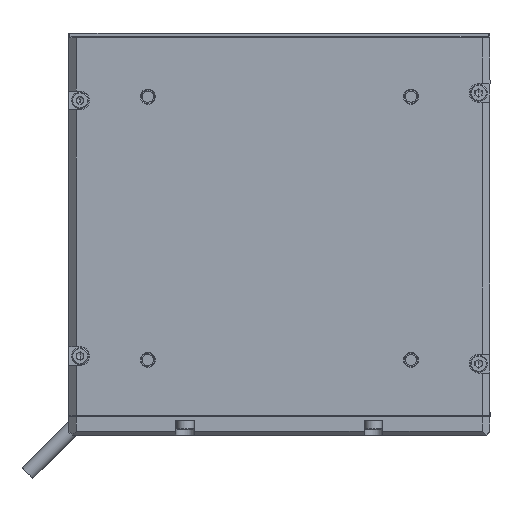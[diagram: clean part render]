
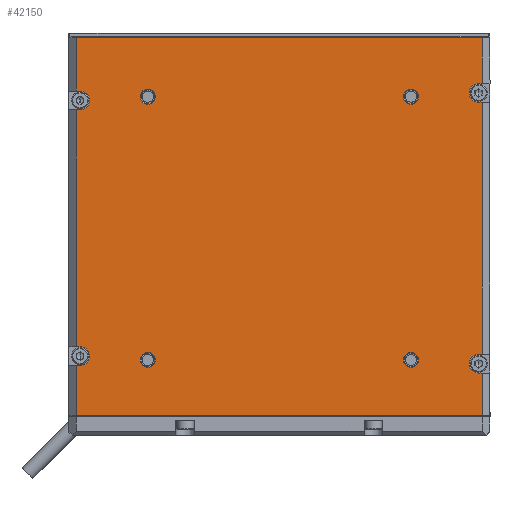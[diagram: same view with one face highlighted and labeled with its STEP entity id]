
A CAD part, top view. The second image highlights one B-rep face of the part: STEP entity #42150.
In plain terms, the highlighted planar face has unit normal (0, 0, 1).
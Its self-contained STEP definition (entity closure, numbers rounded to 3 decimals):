
#39350=CARTESIAN_POINT('',(93.5,93.1,108.9));
#39360=VERTEX_POINT('',#39350);
#39600=CARTESIAN_POINT('',(82.1,93.1,108.9));
#39610=DIRECTION('',(1.,0.,0.));
#39620=VECTOR('',#39610,1.);
#39630=LINE('',#39600,#39620);
#39640=CARTESIAN_POINT('',(82.1,93.1,108.9));
#39650=VERTEX_POINT('',#39640);
#39660=EDGE_CURVE('',#39650,#39360,#39630,.T.);
#39930=CARTESIAN_POINT('',(41.355,91.565,108.9));
#39940=DIRECTION('',(0.,0.,1.));
#39950=DIRECTION('',(0.,1.,0.));
#39960=AXIS2_PLACEMENT_3D('',#39930,#39940,#39950);
#39970=PLANE('',#39960);
#39980=CARTESIAN_POINT('',(80.1,-14.9,108.9));
#39990=DIRECTION('',(1.,0.,0.));
#40000=VECTOR('',#39990,1.);
#40010=LINE('',#39980,#40000);
#40020=CARTESIAN_POINT('',(80.1,-14.9,108.9));
#40030=VERTEX_POINT('',#40020);
#40040=CARTESIAN_POINT('',(93.5,-14.9,108.9));
#40050=VERTEX_POINT('',#40040);
#40060=EDGE_CURVE('',#40030,#40050,#40010,.T.);
#40070=ORIENTED_EDGE('',*,*,#40060,.T.);
#40080=CARTESIAN_POINT('',(80.1,-14.9,108.9));
#40090=DIRECTION('',(0.,1.,0.));
#40100=VECTOR('',#40090,1.);
#40110=LINE('',#40080,#40100);
#40120=CARTESIAN_POINT('',(80.1,-13.9,108.9));
#40130=VERTEX_POINT('',#40120);
#40140=EDGE_CURVE('',#40030,#40130,#40110,.T.);
#40150=ORIENTED_EDGE('',*,*,#40140,.F.);
#40160=CARTESIAN_POINT('',(77.6,-13.9,108.9));
#40170=DIRECTION('',(-0.,0.,-1.));
#40180=DIRECTION('',(-1.,0.,0.));
#40190=AXIS2_PLACEMENT_3D('',#40160,#40170,#40180);
#40200=CIRCLE('',#40190,2.5);
#40210=CARTESIAN_POINT('',(75.1,-13.9,108.9));
#40220=VERTEX_POINT('',#40210);
#40230=EDGE_CURVE('',#40220,#40130,#40200,.T.);
#40240=ORIENTED_EDGE('',*,*,#40230,.T.);
#40250=CARTESIAN_POINT('',(75.1,-13.9,108.9));
#40260=DIRECTION('',(0.,-1.,0.));
#40270=VECTOR('',#40260,1.);
#40280=LINE('',#40250,#40270);
#40290=CARTESIAN_POINT('',(75.1,-14.9,108.9));
#40300=VERTEX_POINT('',#40290);
#40310=EDGE_CURVE('',#40220,#40300,#40280,.T.);
#40320=ORIENTED_EDGE('',*,*,#40310,.F.);
#40330=CARTESIAN_POINT('',(12.1,-14.9,108.9));
#40340=DIRECTION('',(1.,0.,0.));
#40350=VECTOR('',#40340,1.);
#40360=LINE('',#40330,#40350);
#40370=CARTESIAN_POINT('',(12.1,-14.9,108.9));
#40380=VERTEX_POINT('',#40370);
#40390=EDGE_CURVE('',#40380,#40300,#40360,.T.);
#40400=ORIENTED_EDGE('',*,*,#40390,.T.);
#40410=CARTESIAN_POINT('',(12.1,-14.9,108.9));
#40420=DIRECTION('',(0.,1.,0.));
#40430=VECTOR('',#40420,1.);
#40440=LINE('',#40410,#40430);
#40450=CARTESIAN_POINT('',(12.1,-13.9,108.9));
#40460=VERTEX_POINT('',#40450);
#40470=EDGE_CURVE('',#40380,#40460,#40440,.T.);
#40480=ORIENTED_EDGE('',*,*,#40470,.F.);
#40490=CARTESIAN_POINT('',(9.6,-13.9,108.9));
#40500=DIRECTION('',(-0.,0.,-1.));
#40510=DIRECTION('',(-1.,0.,0.));
#40520=AXIS2_PLACEMENT_3D('',#40490,#40500,#40510);
#40530=CIRCLE('',#40520,2.5);
#40540=CARTESIAN_POINT('',(7.1,-13.9,108.9));
#40550=VERTEX_POINT('',#40540);
#40560=EDGE_CURVE('',#40550,#40460,#40530,.T.);
#40570=ORIENTED_EDGE('',*,*,#40560,.T.);
#40580=CARTESIAN_POINT('',(7.1,-13.9,108.9));
#40590=DIRECTION('',(0.,-1.,0.));
#40600=VECTOR('',#40590,1.);
#40610=LINE('',#40580,#40600);
#40620=CARTESIAN_POINT('',(7.1,-14.9,108.9));
#40630=VERTEX_POINT('',#40620);
#40640=EDGE_CURVE('',#40550,#40630,#40610,.T.);
#40650=ORIENTED_EDGE('',*,*,#40640,.F.);
#40660=CARTESIAN_POINT('',(-7.1,-14.9,108.9));
#40670=DIRECTION('',(1.,0.,0.));
#40680=VECTOR('',#40670,1.);
#40690=LINE('',#40660,#40680);
#40700=CARTESIAN_POINT('',(-7.1,-14.9,108.9));
#40710=VERTEX_POINT('',#40700);
#40720=EDGE_CURVE('',#40710,#40630,#40690,.T.);
#40730=ORIENTED_EDGE('',*,*,#40720,.T.);
#40740=CARTESIAN_POINT('',(-7.1,-14.9,108.9));
#40750=DIRECTION('',(0.,1.,0.));
#40760=VECTOR('',#40750,1.);
#40770=LINE('',#40740,#40760);
#40780=CARTESIAN_POINT('',(-7.1,93.1,108.9));
#40790=VERTEX_POINT('',#40780);
#40800=EDGE_CURVE('',#40710,#40790,#40770,.T.);
#40810=ORIENTED_EDGE('',*,*,#40800,.F.);
#40820=CARTESIAN_POINT('',(5.1,93.1,108.9));
#40830=DIRECTION('',(-1.,0.,0.));
#40840=VECTOR('',#40830,1.);
#40850=LINE('',#40820,#40840);
#40860=CARTESIAN_POINT('',(5.1,93.1,108.9));
#40870=VERTEX_POINT('',#40860);
#40880=EDGE_CURVE('',#40870,#40790,#40850,.T.);
#40890=ORIENTED_EDGE('',*,*,#40880,.T.);
#40900=CARTESIAN_POINT('',(5.1,93.1,108.9));
#40910=DIRECTION('',(0.,-1.,0.));
#40920=VECTOR('',#40910,1.);
#40930=LINE('',#40900,#40920);
#40940=CARTESIAN_POINT('',(5.1,92.1,108.9));
#40950=VERTEX_POINT('',#40940);
#40960=EDGE_CURVE('',#40870,#40950,#40930,.T.);
#40970=ORIENTED_EDGE('',*,*,#40960,.F.);
#40980=CARTESIAN_POINT('',(7.6,92.1,108.9));
#40990=DIRECTION('',(0.,0.,-1.));
#41000=DIRECTION('',(1.,0.,0.));
#41010=AXIS2_PLACEMENT_3D('',#40980,#40990,#41000);
#41020=CIRCLE('',#41010,2.5);
#41030=CARTESIAN_POINT('',(10.1,92.1,108.9));
#41040=VERTEX_POINT('',#41030);
#41050=EDGE_CURVE('',#41040,#40950,#41020,.T.);
#41060=ORIENTED_EDGE('',*,*,#41050,.T.);
#41070=CARTESIAN_POINT('',(10.1,92.1,108.9));
#41080=DIRECTION('',(0.,1.,0.));
#41090=VECTOR('',#41080,1.);
#41100=LINE('',#41070,#41090);
#41110=CARTESIAN_POINT('',(10.1,93.1,108.9));
#41120=VERTEX_POINT('',#41110);
#41130=EDGE_CURVE('',#41040,#41120,#41100,.T.);
#41140=ORIENTED_EDGE('',*,*,#41130,.F.);
#41150=CARTESIAN_POINT('',(77.1,93.1,108.9));
#41160=DIRECTION('',(-1.,0.,0.));
#41170=VECTOR('',#41160,1.);
#41180=LINE('',#41150,#41170);
#41190=CARTESIAN_POINT('',(77.1,93.1,108.9));
#41200=VERTEX_POINT('',#41190);
#41210=EDGE_CURVE('',#41200,#41120,#41180,.T.);
#41220=ORIENTED_EDGE('',*,*,#41210,.T.);
#41230=CARTESIAN_POINT('',(77.1,93.1,108.9));
#41240=DIRECTION('',(0.,-1.,0.));
#41250=VECTOR('',#41240,1.);
#41260=LINE('',#41230,#41250);
#41270=CARTESIAN_POINT('',(77.1,92.1,108.9));
#41280=VERTEX_POINT('',#41270);
#41290=EDGE_CURVE('',#41200,#41280,#41260,.T.);
#41300=ORIENTED_EDGE('',*,*,#41290,.F.);
#41310=CARTESIAN_POINT('',(79.6,92.1,108.9));
#41320=DIRECTION('',(0.,0.,-1.));
#41330=DIRECTION('',(1.,0.,0.));
#41340=AXIS2_PLACEMENT_3D('',#41310,#41320,#41330);
#41350=CIRCLE('',#41340,2.5);
#41360=CARTESIAN_POINT('',(82.1,92.1,108.9));
#41370=VERTEX_POINT('',#41360);
#41380=EDGE_CURVE('',#41370,#41280,#41350,.T.);
#41390=ORIENTED_EDGE('',*,*,#41380,.T.);
#41400=CARTESIAN_POINT('',(82.1,92.1,108.9));
#41410=DIRECTION('',(0.,1.,0.));
#41420=VECTOR('',#41410,1.);
#41430=LINE('',#41400,#41420);
#41440=EDGE_CURVE('',#41370,#39650,#41430,.T.);
#41450=ORIENTED_EDGE('',*,*,#41440,.F.);
#41460=ORIENTED_EDGE('',*,*,#39660,.F.);
#41470=CARTESIAN_POINT('',(93.5,-14.9,108.9));
#41480=DIRECTION('',(0.,1.,0.));
#41490=VECTOR('',#41480,1.);
#41500=LINE('',#41470,#41490);
#41510=EDGE_CURVE('',#40050,#39360,#41500,.T.);
#41520=ORIENTED_EDGE('',*,*,#41510,.T.);
#41530=EDGE_LOOP('',(#41520,#41460,#41450,#41390,#41300,#41220,#41140,
#41060,#40970,#40890,#40810,#40730,#40650,#40570,#40480,#40400,#40320,
#40240,#40150,#40070));
#41540=FACE_OUTER_BOUND('',#41530,.T.);
#41550=CARTESIAN_POINT('',(78.6,4.1,108.9));
#41560=DIRECTION('',(0.,0.,-1.));
#41570=DIRECTION('',(0.,1.,0.));
#41580=AXIS2_PLACEMENT_3D('',#41550,#41560,#41570);
#41590=CIRCLE('',#41580,2.);
#41600=CARTESIAN_POINT('',(78.6,2.1,108.9));
#41610=VERTEX_POINT('',#41600);
#41620=CARTESIAN_POINT('',(78.6,6.1,108.9));
#41630=VERTEX_POINT('',#41620);
#41640=EDGE_CURVE('',#41610,#41630,#41590,.T.);
#41650=ORIENTED_EDGE('',*,*,#41640,.T.);
#41660=EDGE_CURVE('',#41630,#41610,#41590,.T.);
#41670=ORIENTED_EDGE('',*,*,#41660,.T.);
#41680=EDGE_LOOP('',(#41670,#41650));
#41690=FACE_BOUND('',#41680,.T.);
#41700=CARTESIAN_POINT('',(78.6,74.1,108.9));
#41710=DIRECTION('',(0.,0.,-1.));
#41720=DIRECTION('',(0.,1.,0.));
#41730=AXIS2_PLACEMENT_3D('',#41700,#41710,#41720);
#41740=CIRCLE('',#41730,2.);
#41750=CARTESIAN_POINT('',(78.6,72.1,108.9));
#41760=VERTEX_POINT('',#41750);
#41770=CARTESIAN_POINT('',(78.6,76.1,108.9));
#41780=VERTEX_POINT('',#41770);
#41790=EDGE_CURVE('',#41760,#41780,#41740,.T.);
#41800=ORIENTED_EDGE('',*,*,#41790,.T.);
#41810=EDGE_CURVE('',#41780,#41760,#41740,.T.);
#41820=ORIENTED_EDGE('',*,*,#41810,.T.);
#41830=EDGE_LOOP('',(#41820,#41800));
#41840=FACE_BOUND('',#41830,.T.);
#41850=CARTESIAN_POINT('',(8.6,74.1,108.9));
#41860=DIRECTION('',(-0.,0.,-1.));
#41870=DIRECTION('',(0.,1.,0.));
#41880=AXIS2_PLACEMENT_3D('',#41850,#41860,#41870);
#41890=CIRCLE('',#41880,2.);
#41900=CARTESIAN_POINT('',(8.6,72.1,108.9));
#41910=VERTEX_POINT('',#41900);
#41920=CARTESIAN_POINT('',(8.6,76.1,108.9));
#41930=VERTEX_POINT('',#41920);
#41940=EDGE_CURVE('',#41910,#41930,#41890,.T.);
#41950=ORIENTED_EDGE('',*,*,#41940,.T.);
#41960=EDGE_CURVE('',#41930,#41910,#41890,.T.);
#41970=ORIENTED_EDGE('',*,*,#41960,.T.);
#41980=EDGE_LOOP('',(#41970,#41950));
#41990=FACE_BOUND('',#41980,.T.);
#42000=CARTESIAN_POINT('',(8.6,4.1,108.9));
#42010=DIRECTION('',(-0.,0.,-1.));
#42020=DIRECTION('',(0.,1.,0.));
#42030=AXIS2_PLACEMENT_3D('',#42000,#42010,#42020);
#42040=CIRCLE('',#42030,2.);
#42050=CARTESIAN_POINT('',(8.6,6.1,108.9));
#42060=VERTEX_POINT('',#42050);
#42070=CARTESIAN_POINT('',(8.6,2.1,108.9));
#42080=VERTEX_POINT('',#42070);
#42090=EDGE_CURVE('',#42060,#42080,#42040,.T.);
#42100=ORIENTED_EDGE('',*,*,#42090,.T.);
#42110=EDGE_CURVE('',#42080,#42060,#42040,.T.);
#42120=ORIENTED_EDGE('',*,*,#42110,.T.);
#42130=EDGE_LOOP('',(#42120,#42100));
#42140=FACE_BOUND('',#42130,.T.);
#42150=ADVANCED_FACE('',(#41540,#41690,#41840,#41990,#42140),#39970,.T.)
;
